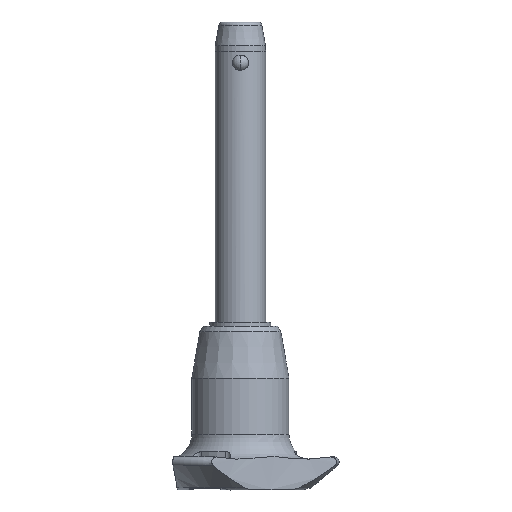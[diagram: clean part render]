
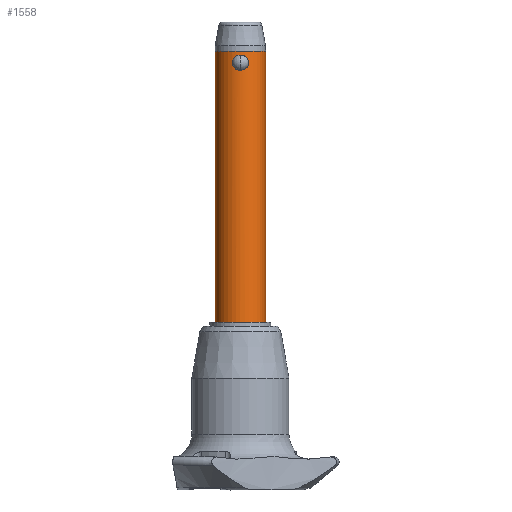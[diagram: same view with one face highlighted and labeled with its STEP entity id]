
A CAD part, front view. The second image highlights one B-rep face of the part: STEP entity #1558.
In plain terms, the highlighted cylindrical face has radius 5 mm (diameter 10 mm), a partial arc.
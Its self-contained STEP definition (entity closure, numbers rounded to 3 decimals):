
#22 = CARTESIAN_POINT ( 'NONE',  ( 0., -5., 0. ) ) ;
#27 = DIRECTION ( 'NONE',  ( 0., 0., 1. ) ) ;
#68 = CARTESIAN_POINT ( 'NONE',  ( 1.551, -4.753, 1.922 ) ) ;
#95 = CARTESIAN_POINT ( 'NONE',  ( -1.047, -4.89, 2.676 ) ) ;
#97 = EDGE_CURVE ( 'NONE', #1580, #920, #1456, .T. ) ;
#107 = VERTEX_POINT ( 'NONE', #1655 ) ;
#112 = LINE ( 'NONE', #538, #1898 ) ;
#127 = CARTESIAN_POINT ( 'NONE',  ( -0.966, -4.907, 0.296 ) ) ;
#141 = CARTESIAN_POINT ( 'NONE',  ( -0.792, -4.938, 0.19 ) ) ;
#148 = VERTEX_POINT ( 'NONE', #2599 ) ;
#155 = CARTESIAN_POINT ( 'NONE',  ( -1.435, -4.79, 2.209 ) ) ;
#243 = CARTESIAN_POINT ( 'NONE',  ( 0., 0., -50. ) ) ;
#248 = CARTESIAN_POINT ( 'NONE',  ( 0.205, -5., 0. ) ) ;
#264 = CARTESIAN_POINT ( 'NONE',  ( 1.594, -4.739, 1.721 ) ) ;
#293 = CARTESIAN_POINT ( 'NONE',  ( 0.966, -4.907, 0.296 ) ) ;
#306 = CARTESIAN_POINT ( 'NONE',  ( -0.699, -4.952, 0.145 ) ) ;
#311 = EDGE_LOOP ( 'NONE', ( #762, #2092 ) ) ;
#336 = DIRECTION ( 'NONE',  ( 0., 0., 1. ) ) ;
#340 = EDGE_CURVE ( 'NONE', #920, #148, #1847, .T. ) ;
#451 = DIRECTION ( 'NONE',  ( 1., 0., 0. ) ) ;
#462 = CARTESIAN_POINT ( 'NONE',  ( 1.434, -4.79, 0.822 ) ) ;
#467 = VECTOR ( 'NONE', #2096, 1000. ) ;
#479 = CARTESIAN_POINT ( 'NONE',  ( 1.196, -4.855, 0.493 ) ) ;
#525 = CARTESIAN_POINT ( 'NONE',  ( 1.56, -4.751, 1.103 ) ) ;
#530 = ORIENTED_EDGE ( 'NONE', *, *, #607, .F. ) ;
#538 = CARTESIAN_POINT ( 'NONE',  ( 5., 0., -50. ) ) ;
#552 = CARTESIAN_POINT ( 'NONE',  ( -1.394, -4.802, 0.731 ) ) ;
#569 = CARTESIAN_POINT ( 'NONE',  ( -0.208, -5., 3.033 ) ) ;
#593 = ORIENTED_EDGE ( 'NONE', *, *, #97, .F. ) ;
#600 = CARTESIAN_POINT ( 'NONE',  ( 0., 0., -50. ) ) ;
#607 = EDGE_CURVE ( 'NONE', #148, #1519, #2674, .T. ) ;
#644 = CYLINDRICAL_SURFACE ( 'NONE', #1518, 5. ) ;
#689 = CARTESIAN_POINT ( 'NONE',  ( 1.604, -4.736, 1.619 ) ) ;
#712 = B_SPLINE_CURVE_WITH_KNOTS ( 'NONE', 3,
 ( #22, #248, #1326, #1059, #2650, #293, #2015, #479, #2451, #2696, #462, #525, #1371, #689, #264, #68, #1162, #1792, #2046, #936, #2242, #2708, #1605, #1389, #2680, #732 ),
 .UNSPECIFIED., .F., .F.,
 ( 4, 2, 2, 2, 2, 2, 2, 2, 2, 2, 2, 2, 4 ),
 ( 0.005, 0.006, 0.006, 0.006, 0.006, 0.007, 0.007, 0.008, 0.008, 0.009, 0.009, 0.009, 0.01 ),
 .UNSPECIFIED. ) ;
#732 = CARTESIAN_POINT ( 'NONE',  ( 0., -5., 3.033 ) ) ;
#751 = CARTESIAN_POINT ( 'NONE',  ( -1.551, -4.753, 1.11 ) ) ;
#762 = ORIENTED_EDGE ( 'NONE', *, *, #2197, .F. ) ;
#768 = CARTESIAN_POINT ( 'NONE',  ( -1.56, -4.751, 1.931 ) ) ;
#833 = DIRECTION ( 'NONE',  ( 1., 0., 0. ) ) ;
#851 = CARTESIAN_POINT ( 'NONE',  ( 0., -5., 0. ) ) ;
#920 = VERTEX_POINT ( 'NONE', #2026 ) ;
#936 = CARTESIAN_POINT ( 'NONE',  ( 1.048, -4.889, 2.676 ) ) ;
#979 = CARTESIAN_POINT ( 'NONE',  ( -1.383, -4.805, 2.299 ) ) ;
#992 = CARTESIAN_POINT ( 'NONE',  ( -1.197, -4.855, 2.539 ) ) ;
#1036 = DIRECTION ( 'NONE',  ( 1., 0., 0. ) ) ;
#1059 = CARTESIAN_POINT ( 'NONE',  ( 0.699, -4.952, 0.144 ) ) ;
#1094 = CARTESIAN_POINT ( 'NONE',  ( 5., 0., -50. ) ) ;
#1162 = CARTESIAN_POINT ( 'NONE',  ( 1.519, -4.764, 2.021 ) ) ;
#1175 = CARTESIAN_POINT ( 'NONE',  ( -0.412, -4.987, 2.997 ) ) ;
#1206 = CARTESIAN_POINT ( 'NONE',  ( 0., -5., 0. ) ) ;
#1214 = CARTESIAN_POINT ( 'NONE',  ( -5., 0., -50. ) ) ;
#1308 = DIRECTION ( 'NONE',  ( 0., 0., 1. ) ) ;
#1326 = CARTESIAN_POINT ( 'NONE',  ( 0.412, -4.987, 0.037 ) ) ;
#1329 = AXIS2_PLACEMENT_3D ( 'NONE', #1921, #27, #451 ) ;
#1371 = CARTESIAN_POINT ( 'NONE',  ( 1.604, -4.736, 1.308 ) ) ;
#1389 = CARTESIAN_POINT ( 'NONE',  ( 0.412, -4.987, 2.996 ) ) ;
#1405 = B_SPLINE_CURVE_WITH_KNOTS ( 'NONE', 3,
 ( #1870, #569, #1175, #1448, #2117, #1651, #95, #992, #2289, #979, #155, #768, #2104, #2525, #1883, #751, #2538, #552, #1417, #1435, #127, #141, #306, #2302, #1625, #1206 ),
 .UNSPECIFIED., .F., .F.,
 ( 4, 2, 2, 2, 2, 2, 2, 2, 2, 2, 2, 2, 4 ),
 ( 0., 0.001, 0.001, 0.001, 0.002, 0.002, 0.002, 0.003, 0.003, 0.004, 0.004, 0.004, 0.005 ),
 .UNSPECIFIED. ) ;
#1417 = CARTESIAN_POINT ( 'NONE',  ( -1.272, -4.838, 0.564 ) ) ;
#1435 = CARTESIAN_POINT ( 'NONE',  ( -1.047, -4.89, 0.357 ) ) ;
#1448 = CARTESIAN_POINT ( 'NONE',  ( -0.7, -4.952, 2.888 ) ) ;
#1456 = CIRCLE ( 'NONE', #1924, 5. ) ;
#1518 = AXIS2_PLACEMENT_3D ( 'NONE', #243, #1308, #833 ) ;
#1519 = VERTEX_POINT ( 'NONE', #2359 ) ;
#1539 = FACE_OUTER_BOUND ( 'NONE', #1658, .T. ) ;
#1558 = ADVANCED_FACE ( 'NONE', ( #1539, #1730 ), #644, .T. ) ;
#1580 = VERTEX_POINT ( 'NONE', #1094 ) ;
#1605 = CARTESIAN_POINT ( 'NONE',  ( 0.7, -4.952, 2.888 ) ) ;
#1625 = CARTESIAN_POINT ( 'NONE',  ( -0.205, -5., 0. ) ) ;
#1651 = CARTESIAN_POINT ( 'NONE',  ( -0.965, -4.907, 2.738 ) ) ;
#1655 = CARTESIAN_POINT ( 'NONE',  ( 0., -5., 3.033 ) ) ;
#1658 = EDGE_LOOP ( 'NONE', ( #2190, #593, #2500, #530 ) ) ;
#1730 = FACE_BOUND ( 'NONE', #311, .T. ) ;
#1792 = CARTESIAN_POINT ( 'NONE',  ( 1.395, -4.802, 2.301 ) ) ;
#1847 = LINE ( 'NONE', #1214, #467 ) ;
#1870 = CARTESIAN_POINT ( 'NONE',  ( 0., -5., 3.033 ) ) ;
#1883 = CARTESIAN_POINT ( 'NONE',  ( -1.594, -4.739, 1.312 ) ) ;
#1898 = VECTOR ( 'NONE', #336, 1000. ) ;
#1921 = CARTESIAN_POINT ( 'NONE',  ( 0., 0., 3.84 ) ) ;
#1924 = AXIS2_PLACEMENT_3D ( 'NONE', #600, #2810, #1036 ) ;
#2015 = CARTESIAN_POINT ( 'NONE',  ( 1.047, -4.89, 0.356 ) ) ;
#2026 = CARTESIAN_POINT ( 'NONE',  ( -5., 0., -50. ) ) ;
#2046 = CARTESIAN_POINT ( 'NONE',  ( 1.272, -4.838, 2.47 ) ) ;
#2075 = EDGE_CURVE ( 'NONE', #2840, #107, #712, .T. ) ;
#2092 = ORIENTED_EDGE ( 'NONE', *, *, #2075, .F. ) ;
#2096 = DIRECTION ( 'NONE',  ( 0., 0., 1. ) ) ;
#2104 = CARTESIAN_POINT ( 'NONE',  ( -1.604, -4.736, 1.724 ) ) ;
#2117 = CARTESIAN_POINT ( 'NONE',  ( -0.791, -4.938, 2.844 ) ) ;
#2166 = EDGE_CURVE ( 'NONE', #1580, #1519, #112, .T. ) ;
#2190 = ORIENTED_EDGE ( 'NONE', *, *, #340, .F. ) ;
#2197 = EDGE_CURVE ( 'NONE', #107, #2840, #1405, .T. ) ;
#2242 = CARTESIAN_POINT ( 'NONE',  ( 0.966, -4.907, 2.738 ) ) ;
#2289 = CARTESIAN_POINT ( 'NONE',  ( -1.264, -4.838, 2.464 ) ) ;
#2302 = CARTESIAN_POINT ( 'NONE',  ( -0.412, -4.987, 0.037 ) ) ;
#2359 = CARTESIAN_POINT ( 'NONE',  ( 5., 0., 3.84 ) ) ;
#2451 = CARTESIAN_POINT ( 'NONE',  ( 1.265, -4.838, 0.57 ) ) ;
#2500 = ORIENTED_EDGE ( 'NONE', *, *, #2166, .T. ) ;
#2525 = CARTESIAN_POINT ( 'NONE',  ( -1.604, -4.736, 1.416 ) ) ;
#2538 = CARTESIAN_POINT ( 'NONE',  ( -1.519, -4.764, 1.013 ) ) ;
#2599 = CARTESIAN_POINT ( 'NONE',  ( -5., 0., 3.84 ) ) ;
#2650 = CARTESIAN_POINT ( 'NONE',  ( 0.792, -4.938, 0.19 ) ) ;
#2674 = CIRCLE ( 'NONE', #1329, 5. ) ;
#2680 = CARTESIAN_POINT ( 'NONE',  ( 0.208, -5., 3.033 ) ) ;
#2696 = CARTESIAN_POINT ( 'NONE',  ( 1.384, -4.805, 0.735 ) ) ;
#2708 = CARTESIAN_POINT ( 'NONE',  ( 0.792, -4.938, 2.844 ) ) ;
#2810 = DIRECTION ( 'NONE',  ( 0., 0., -1. ) ) ;
#2840 = VERTEX_POINT ( 'NONE', #851 ) ;
